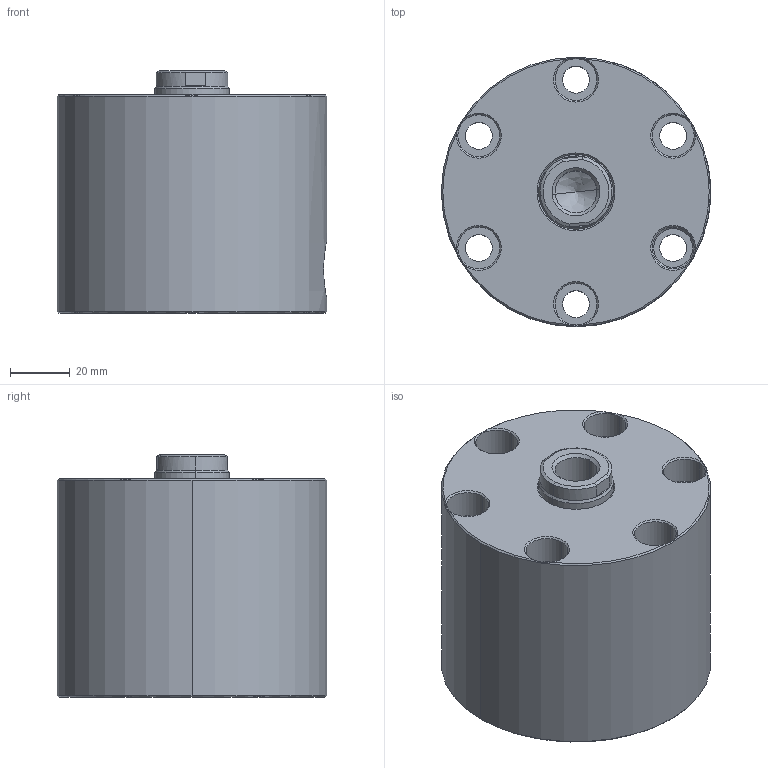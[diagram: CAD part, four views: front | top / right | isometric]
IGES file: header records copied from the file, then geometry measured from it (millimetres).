
Start section: SolidWorks IGES file using analytic representation for surfaces
Global section: file name: F:\COMPECT CYLINDER-STD\CO2C-9525.IGS; native system: SolidWorks 2019; preprocessor: SolidWorks 2019; author: ADMIN; date: 200708.142212; units: millimetre
Bounding box: 90 x 90 x 81 mm (x, y, z)
Volume: 414719.9 mm3; surface area: 58152.5 mm2
Topology: 2 solids, 2 shells, 130 faces, 315 edges, 188 vertices
Faces by surface type: revolution 105, plane 25
